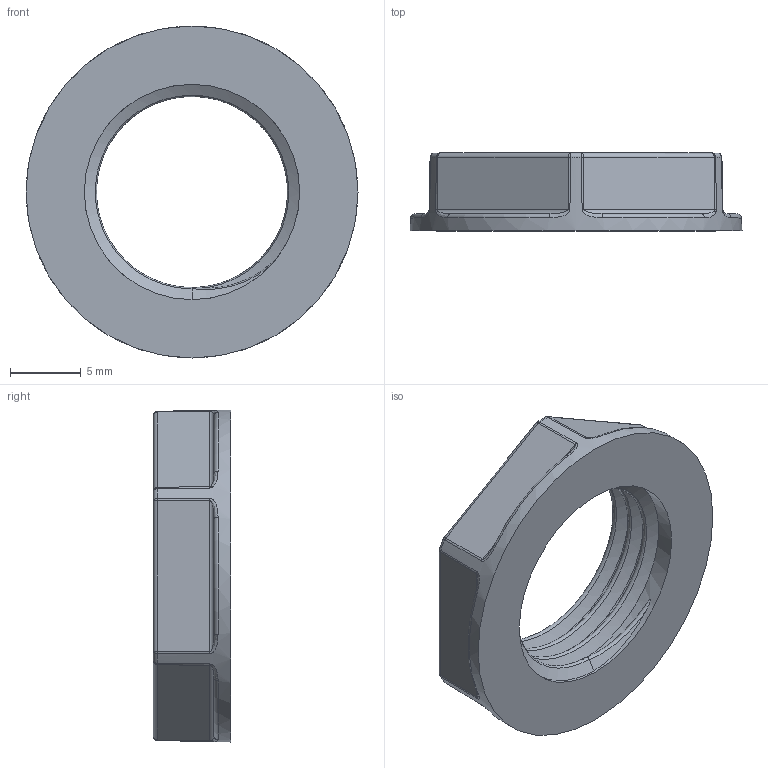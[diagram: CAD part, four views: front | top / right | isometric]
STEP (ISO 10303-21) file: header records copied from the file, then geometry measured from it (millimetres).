
FILE_DESCRIPTION (( 'STEP AP203' ), '1' );
FILE_NAME ('Ãàéêà ïðèæèìíàÿ (PG9-Ì15).STEP', '2020-08-06T09:26:43', ( '' ), ( '' ), 'SwSTEP 2.0', 'SolidWorks 2019', '' );
FILE_SCHEMA (( 'CONFIG_CONTROL_DESIGN' ));
Length unit declared in the file: millimetre
Products named in the file (1): Ãàéêà ïðèæèìíàÿ (PG9-Ì15)
Bounding box: 23.5 x 5.5 x 23.5 mm (x, y, z)
Volume: 1203.4 mm3; surface area: 1275.2 mm2
Topology: 1 solids, 1 shells, 85 faces, 198 edges, 103 vertices
Faces by surface type: bspline 30, cylinder 16, plane 14, torus 12, sphere 12, cone 1
Full cylindrical faces by diameter (mm): 15.25 x3
Entity records: 4209 total; most frequent: CARTESIAN_POINT 2557, ORIENTED_EDGE 348, DIRECTION 308, EDGE_CURVE 174, AXIS2_PLACEMENT_3D 141, VERTEX_POINT 96, CIRCLE 88, EDGE_LOOP 86
